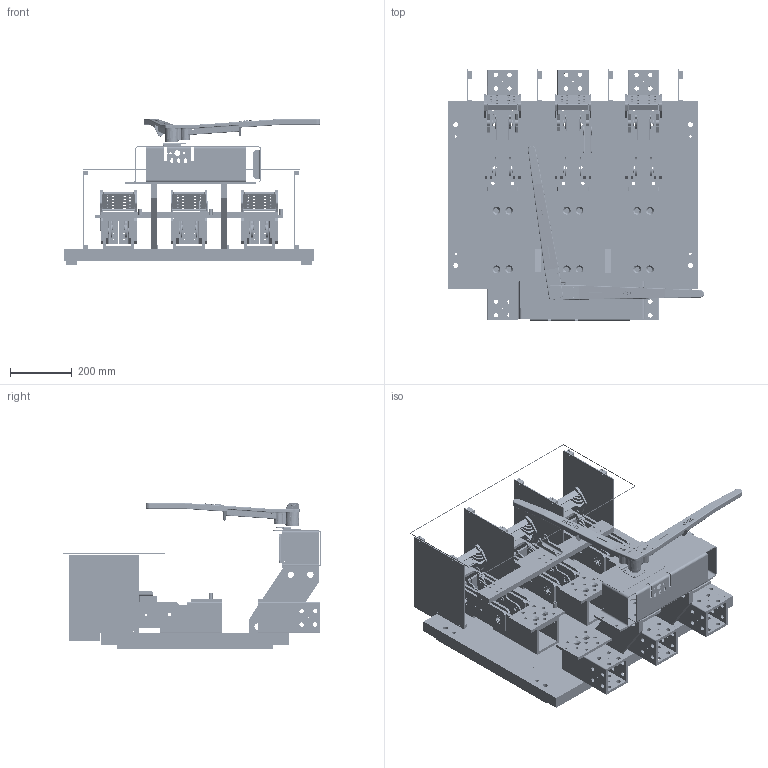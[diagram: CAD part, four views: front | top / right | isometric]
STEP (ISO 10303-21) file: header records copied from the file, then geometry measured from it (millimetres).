
FILE_DESCRIPTION(/* description */ (''),/* implementation_level */ '2;1');
FILE_NAME(/* name */ 'H:\switches\3d-templates\catalog-switches-iges-files\CATALOG-SL3613.stp',/* time_stamp */ '2022-01-21T14:43:33-06:00',/* author */ ('MKingston'),/* organization */ (''),/* preprocessor_version */ 'ST-DEVELOPER v18.1',/* originating_system */ 'Autodesk Inventor 2022',/* authorisation */ '');
FILE_SCHEMA (('AUTOMOTIVE_DESIGN { 1 0 10303 214 3 1 1 }'));
Products named in the file (36): CATALOG-SL3613; 727; 701; 708-arc-chute-assy; 50-ql; 50-qr; 709; 702; 703; 704; 248-A; CATALOG-4000-blade-assy; 705-b; 705-a; 705-c; 67-j; 69-gc3; 69-gd3; 67-fc3; 68-M; 236-b; 50-g; 255-q; sl-interpole-barrier-assy; 255-p; 178-c; 178-b; 672-a; 820-bw1; 820-fw3; 221-RP,R3; 672-E; 67-ZBA; 223-FE; 223-d-transparent; 223-d-transparent-red
Assembly tree (65 placements, depth 3):
  CATALOG-SL3613
    727
    701  x3
    708-arc-chute-assy  x3
      50-ql
      50-qr
      709
    702  x3
    703  x3
    704  x6
    248-A  x2
    CATALOG-4000-blade-assy  x3
      705-c
      705-b
      67-j
      705-a
      67-fc3
      69-gc3
      69-gd3
      68-M
    236-b
    50-g
    sl-interpole-barrier-assy  x4
      255-p
      178-b
      178-c
    255-q
    672-a  x2
    820-bw1
    820-fw3
    221-RP,R3
    672-E
    67-ZBA  x3
    223-FE
    223-d-transparent
    223-d-transparent-red
Bounding box: 831.78 x 837.9 x 474.19 mm (x, y, z)
Volume: 31471231.5 mm3; surface area: 5158373.1 mm2
Topology: 111 solids, 112 shells, 3728 faces, 9832 edges, 6467 vertices
Faces by surface type: plane 1766, cylinder 1682, bspline 136, cone 88, torus 56
Full cylindrical faces by diameter (mm): 1.702 x8, 3.302 x14, 3.454 x4, 3.556 x8, 3.569 x14, 3.683 x8, 3.962 x4, 4.343 x84, 4.496 x36, 4.762 x4, 4.775 x8, 4.801 x8, 4.902 x14, 4.915 x16, 4.978 x30, 5.556 x1, 5.563 x6, 5.791 x12, 6.35 x10, 6.528 x47, 7.144 x26, 7.798 x6, 7.938 x6, 8.738 x2, 9.525 x3, 9.601 x2, 9.804 x2, 9.906 x13, 9.931 x8, 10.312 x8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
Entity records: 66961 total; most frequent: CARTESIAN_POINT 18127, DIRECTION 9688, ORIENTED_EDGE 9662, EDGE_CURVE 4839, AXIS2_PLACEMENT_3D 3482, VERTEX_POINT 3171, LINE 2724, VECTOR 2724
